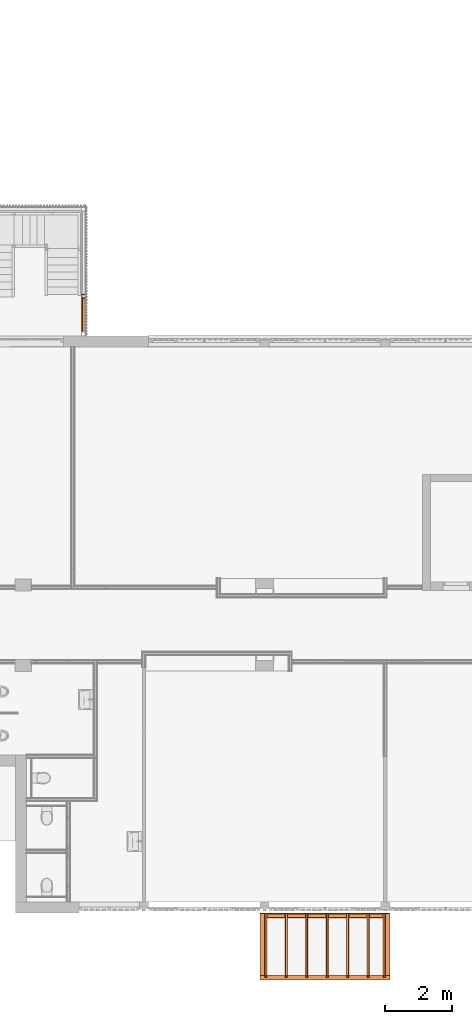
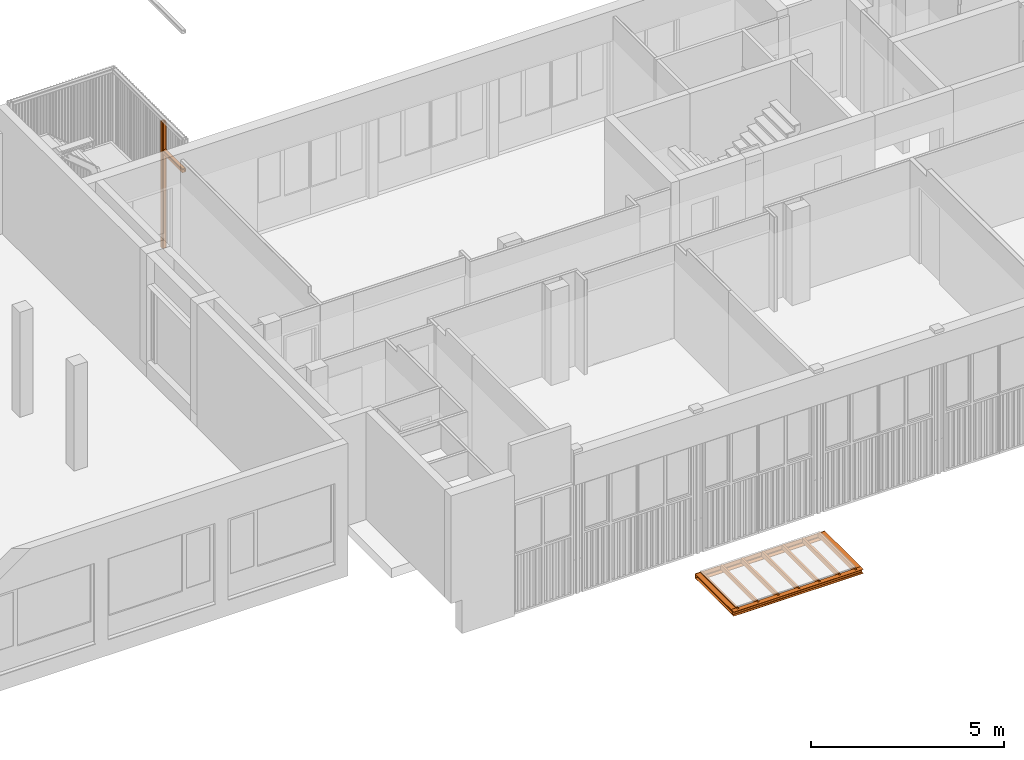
# One storey, part 111 of 117: 13 proxies.
"""IFC2X3 building model written with IfcOpenShell, lengths in millimetres."""

from ifc_helpers import new_model, entity, si_unit, converted_unit, derived_unit, money_unit, direction, frame, origin_with_axes, place, context, subcontext, project, spatial, faceted_brep, material, type_object, element, save


model = new_model("IFC2X3")

# Units and contexts
model_context = context("Model", 3, precision=0.01, world=origin_with_axes(), true_north=direction((0.0, 1.0)))
body_context = subcontext(model_context, "Body", "Model", "MODEL_VIEW")
ifc_project = project(units=[si_unit("LENGTHUNIT", "METRE", prefix="MILLI"), si_unit("AREAUNIT", "SQUARE_METRE"), si_unit("VOLUMEUNIT", "CUBIC_METRE"), converted_unit("PLANEANGLEUNIT", "DEGREE", entity("IfcPlaneAngleMeasure", 0.0174532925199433), si_unit("PLANEANGLEUNIT", "RADIAN"), dimensions=[0, 0, 0, 0, 0, 0, 0]), money_unit("EUR"), converted_unit("TIMEUNIT", "Year", entity("IfcTimeMeasure", 31557600.0), si_unit("TIMEUNIT", "SECOND"), dimensions=[0, 0, 1, 0, 0, 0, 0]), si_unit("MASSUNIT", "GRAM", prefix="KILO"), si_unit("THERMODYNAMICTEMPERATUREUNIT", "DEGREE_CELSIUS"), si_unit("LUMINOUSINTENSITYUNIT", "LUMEN"), si_unit("ENERGYUNIT", "JOULE", prefix="MEGA"), derived_unit("THERMALCONDUCTANCEUNIT", [(si_unit("POWERUNIT", "WATT"), 1), (si_unit("LENGTHUNIT", "METRE"), -1), (si_unit("THERMODYNAMICTEMPERATUREUNIT", "KELVIN"), -1)]), derived_unit("SPECIFICHEATCAPACITYUNIT", [(si_unit("ENERGYUNIT", "JOULE"), 1), (si_unit("MASSUNIT", "GRAM", prefix="KILO"), -1), (si_unit("THERMODYNAMICTEMPERATUREUNIT", "KELVIN"), -1)]), derived_unit("MASSDENSITYUNIT", [(si_unit("MASSUNIT", "GRAM", prefix="KILO"), 1), (si_unit("VOLUMEUNIT", "CUBIC_METRE"), -1)])], contexts=[model_context])

# Site, building, storey
site_placement = place(None, origin_with_axes())
site = spatial("IfcSite", under=ifc_project, at=site_placement, Name="Site", CompositionType="ELEMENT")
building_placement = place(site_placement, origin_with_axes())
building = spatial("IfcBuilding", under=site, at=building_placement, Name="Naam gebouw", CompositionType="ELEMENT")
storey_placement = place(building_placement, frame((0.0, 0.0, 4150.0), z_axis=(0.0, 0.0, 1.0), x_axis=(1.0, 0.0, 0.0)))
storey = spatial("IfcBuildingStorey", under=building, at=storey_placement, Name="1e verdieping N", CompositionType="ELEMENT", Elevation=4150.0)

# Proxies
ifc_material_1 = material(Name="Metaal - Staal AFW")
building_element_proxy_type_1 = type_object("IfcBuildingElementProxyType", Name="HEA balk 27", PredefinedType="NOTDEFINED")
proxy_1_placement = place(storey_placement, frame((7132.449650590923, 1255.668707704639, -1740.0), z_axis=(0.0, 0.0, 1.0), x_axis=(0.0, -1.0, 0.0)))
element("IfcBuildingElementProxy", 1, at=proxy_1_placement, inside=storey, type_object=building_element_proxy_type_1, material=ifc_material_1, Name="_Boom-x", context=body_context, shape_type="Brep", body=[
    faceted_brep([(0.0, -70.0, 0.0), (-1850.000000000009, -70.00000000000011, 0.0), (-1850.000000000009, 69.9999999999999, 0.0), (0.0, 70.0, 0.0), (0.0, -70.0, 8.5), (-1850.000000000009, -70.00000000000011, 8.500000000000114), (-1850.000000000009, -14.75000000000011, 8.500000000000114), (-1850.000000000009, -8.750000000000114, 10.10769515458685), (-1850.000000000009, -4.35769515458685, 14.50000000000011), (-1850.000000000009, -2.750000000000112, 20.50000000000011), (-1850.000000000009, -2.750000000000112, 112.5000000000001), (-1850.000000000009, -4.357695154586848, 118.5000000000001), (-1850.000000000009, -8.750000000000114, 122.8923048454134), (-1850.000000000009, -14.75000000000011, 124.5000000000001), (-1850.000000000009, -70.00000000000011, 124.5000000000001), (-1850.000000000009, -70.00000000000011, 133.0000000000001), (-1850.000000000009, 69.9999999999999, 133.0000000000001), (-1850.000000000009, 69.9999999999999, 124.5000000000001), (-1850.000000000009, 14.74999999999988, 124.5000000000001), (-1850.000000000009, 8.749999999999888, 122.8923048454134), (-1850.000000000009, 4.35769515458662, 118.5000000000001), (-1850.000000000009, 2.749999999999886, 112.5000000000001), (-1850.000000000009, 2.749999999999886, 20.50000000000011), (-1850.000000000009, 4.357695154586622, 14.50000000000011), (-1850.000000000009, 8.749999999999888, 10.10769515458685), (-1850.000000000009, 14.74999999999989, 8.500000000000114), (-1850.000000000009, 69.9999999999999, 8.500000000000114), (0.0, 70.0, 8.5), (0.0, 14.75, 8.5), (0.0, 8.75, 10.10769515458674), (0.0, 4.357695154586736, 14.5), (0.0, 2.749999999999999, 20.5), (0.0, 2.749999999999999, 112.5), (0.0, 4.357695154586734, 118.5), (0.0, 8.75, 122.8923048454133), (0.0, 14.75, 124.5), (0.0, 70.0, 124.5), (0.0, 70.0, 133.0), (0.0, -70.0, 133.0), (0.0, -70.0, 124.5), (0.0, -14.75, 124.5), (0.0, -8.75, 122.8923048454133), (0.0, -4.357695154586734, 118.5), (0.0, -2.749999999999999, 112.5), (0.0, -2.749999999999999, 20.5), (0.0, -4.357695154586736, 14.5), (0.0, -8.75, 10.10769515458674), (0.0, -14.75, 8.5)], [[[0, 1, 2, 3]], [[4, 5, 1, 0]], [[1, 5, 6, 7, 8, 9, 10, 11, 12, 13, 14, 15, 16, 17, 18, 19, 20, 21, 22, 23, 24, 25, 26, 2]], [[3, 2, 26, 27]], [[0, 3, 27, 28, 29, 30, 31, 32, 33, 34, 35, 36, 37, 38, 39, 40, 41, 42, 43, 44, 45, 46, 47, 4]], [[47, 6, 5, 4]], [[46, 7, 6, 47]], [[45, 8, 7, 46]], [[44, 9, 8, 45]], [[43, 10, 9, 44]], [[42, 11, 10, 43]], [[41, 12, 11, 42]], [[40, 13, 12, 41]], [[39, 14, 13, 40]], [[38, 15, 14, 39]], [[37, 16, 15, 38]], [[36, 17, 16, 37]], [[35, 18, 17, 36]], [[34, 19, 18, 35]], [[33, 20, 19, 34]], [[32, 21, 20, 33]], [[31, 22, 21, 32]], [[30, 23, 22, 31]], [[29, 24, 23, 30]], [[28, 25, 24, 29]], [[27, 26, 25, 28]]]),
])
proxy_2_placement = place(storey_placement, frame((7062.449650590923, 1185.668707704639, -1740.0), z_axis=(0.0, 0.0, 1.0), x_axis=(-1.0, 0.0, 0.0)))
element("IfcBuildingElementProxy", 2, at=proxy_2_placement, inside=storey, type_object=building_element_proxy_type_1, material=ifc_material_1, Name="_Boom-x", context=body_context, shape_type="Brep", body=[
    faceted_brep([(0.0, -70.0, 0.0), (-3874.999999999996, -70.00000000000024, 0.0), (-3874.999999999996, 69.99999999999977, 0.0), (0.0, 70.0, 0.0), (0.0, -70.0, 8.5), (-3874.999999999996, -70.00000000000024, 8.500000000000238), (-3874.999999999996, -14.75000000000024, 8.500000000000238), (-3874.999999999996, -8.750000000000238, 10.10769515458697), (-3874.999999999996, -4.357695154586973, 14.50000000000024), (-3874.999999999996, -2.750000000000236, 20.50000000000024), (-3874.999999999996, -2.750000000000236, 112.5000000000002), (-3874.999999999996, -4.357695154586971, 118.5000000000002), (-3874.999999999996, -8.750000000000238, 122.8923048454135), (-3874.999999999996, -14.75000000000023, 124.5000000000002), (-3874.999999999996, -70.00000000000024, 124.5000000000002), (-3874.999999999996, -70.00000000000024, 133.0000000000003), (-3874.999999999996, 69.99999999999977, 133.0000000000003), (-3874.999999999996, 69.99999999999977, 124.5000000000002), (-3874.999999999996, 14.74999999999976, 124.5000000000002), (-3874.999999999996, 8.749999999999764, 122.8923048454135), (-3874.999999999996, 4.357695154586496, 118.5000000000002), (-3874.999999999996, 2.749999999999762, 112.5000000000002), (-3874.999999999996, 2.749999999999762, 20.50000000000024), (-3874.999999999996, 4.357695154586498, 14.50000000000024), (-3874.999999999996, 8.749999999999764, 10.10769515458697), (-3874.999999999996, 14.74999999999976, 8.500000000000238), (-3874.999999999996, 69.99999999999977, 8.500000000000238), (0.0, 70.0, 8.5), (0.0, 14.75, 8.5), (0.0, 8.75, 10.10769515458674), (0.0, 4.357695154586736, 14.5), (0.0, 2.749999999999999, 20.5), (0.0, 2.749999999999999, 112.5), (0.0, 4.357695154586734, 118.5), (0.0, 8.75, 122.8923048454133), (0.0, 14.75, 124.5), (0.0, 70.0, 124.5), (0.0, 70.0, 133.0), (0.0, -70.0, 133.0), (0.0, -70.0, 124.5), (0.0, -14.75, 124.5), (0.0, -8.75, 122.8923048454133), (0.0, -4.357695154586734, 118.5), (0.0, -2.749999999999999, 112.5), (0.0, -2.749999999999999, 20.5), (0.0, -4.357695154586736, 14.5), (0.0, -8.75, 10.10769515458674), (0.0, -14.75, 8.5)], [[[0, 1, 2, 3]], [[4, 5, 1, 0]], [[1, 5, 6, 7, 8, 9, 10, 11, 12, 13, 14, 15, 16, 17, 18, 19, 20, 21, 22, 23, 24, 25, 26, 2]], [[3, 2, 26, 27]], [[0, 3, 27, 28, 29, 30, 31, 32, 33, 34, 35, 36, 37, 38, 39, 40, 41, 42, 43, 44, 45, 46, 47, 4]], [[47, 6, 5, 4]], [[46, 7, 6, 47]], [[45, 8, 7, 46]], [[44, 9, 8, 45]], [[43, 10, 9, 44]], [[42, 11, 10, 43]], [[41, 12, 11, 42]], [[40, 13, 12, 41]], [[39, 14, 13, 40]], [[38, 15, 14, 39]], [[37, 16, 15, 38]], [[36, 17, 16, 37]], [[35, 18, 17, 36]], [[34, 19, 18, 35]], [[33, 20, 19, 34]], [[32, 21, 20, 33]], [[31, 22, 21, 32]], [[30, 23, 22, 31]], [[29, 24, 23, 30]], [[28, 25, 24, 29]], [[27, 26, 25, 28]]]),
])
proxy_3_placement = place(storey_placement, frame((10867.44965059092, 1255.668707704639, -1740.0), z_axis=(0.0, 0.0, 1.0), x_axis=(0.0, -1.0, 0.0)))
element("IfcBuildingElementProxy", 3, at=proxy_3_placement, inside=storey, type_object=building_element_proxy_type_1, material=ifc_material_1, Name="_Boom-x", context=body_context, shape_type="Brep", body=[
    faceted_brep([(0.0, -70.0, 0.0), (-1850.00000000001, -70.00000000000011, 0.0), (-1850.00000000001, 69.9999999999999, 0.0), (0.0, 70.0, 0.0), (0.0, -70.0, 8.5), (-1850.00000000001, -70.00000000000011, 8.500000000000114), (-1850.00000000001, -14.75000000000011, 8.500000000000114), (-1850.00000000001, -8.750000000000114, 10.10769515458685), (-1850.00000000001, -4.35769515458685, 14.50000000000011), (-1850.00000000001, -2.750000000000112, 20.50000000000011), (-1850.00000000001, -2.750000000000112, 112.5000000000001), (-1850.00000000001, -4.357695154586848, 118.5000000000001), (-1850.00000000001, -8.750000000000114, 122.8923048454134), (-1850.00000000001, -14.75000000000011, 124.5000000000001), (-1850.00000000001, -70.00000000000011, 124.5000000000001), (-1850.00000000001, -70.00000000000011, 133.0000000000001), (-1850.00000000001, 69.9999999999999, 133.0000000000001), (-1850.00000000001, 69.9999999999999, 124.5000000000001), (-1850.00000000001, 14.74999999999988, 124.5000000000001), (-1850.00000000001, 8.749999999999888, 122.8923048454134), (-1850.00000000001, 4.35769515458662, 118.5000000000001), (-1850.00000000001, 2.749999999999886, 112.5000000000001), (-1850.00000000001, 2.749999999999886, 20.50000000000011), (-1850.00000000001, 4.357695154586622, 14.50000000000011), (-1850.00000000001, 8.749999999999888, 10.10769515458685), (-1850.00000000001, 14.74999999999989, 8.500000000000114), (-1850.00000000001, 69.9999999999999, 8.500000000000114), (0.0, 70.0, 8.5), (0.0, 14.75, 8.5), (0.0, 8.75, 10.10769515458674), (0.0, 4.357695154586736, 14.5), (0.0, 2.749999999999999, 20.5), (0.0, 2.749999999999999, 112.5), (0.0, 4.357695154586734, 118.5), (0.0, 8.75, 122.8923048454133), (0.0, 14.75, 124.5), (0.0, 70.0, 124.5), (0.0, 70.0, 133.0), (0.0, -70.0, 133.0), (0.0, -70.0, 124.5), (0.0, -14.75, 124.5), (0.0, -8.75, 122.8923048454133), (0.0, -4.357695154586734, 118.5), (0.0, -2.749999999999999, 112.5), (0.0, -2.749999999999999, 20.5), (0.0, -4.357695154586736, 14.5), (0.0, -8.75, 10.10769515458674), (0.0, -14.75, 8.5)], [[[0, 1, 2, 3]], [[4, 5, 1, 0]], [[1, 5, 6, 7, 8, 9, 10, 11, 12, 13, 14, 15, 16, 17, 18, 19, 20, 21, 22, 23, 24, 25, 26, 2]], [[3, 2, 26, 27]], [[0, 3, 27, 28, 29, 30, 31, 32, 33, 34, 35, 36, 37, 38, 39, 40, 41, 42, 43, 44, 45, 46, 47, 4]], [[47, 6, 5, 4]], [[46, 7, 6, 47]], [[45, 8, 7, 46]], [[44, 9, 8, 45]], [[43, 10, 9, 44]], [[42, 11, 10, 43]], [[41, 12, 11, 42]], [[40, 13, 12, 41]], [[39, 14, 13, 40]], [[38, 15, 14, 39]], [[37, 16, 15, 38]], [[36, 17, 16, 37]], [[35, 18, 17, 36]], [[34, 19, 18, 35]], [[33, 20, 19, 34]], [[32, 21, 20, 33]], [[31, 22, 21, 32]], [[30, 23, 22, 31]], [[29, 24, 23, 30]], [[28, 25, 24, 29]], [[27, 26, 25, 28]]]),
])
building_element_proxy_type_2 = type_object("IfcBuildingElementProxyType", Name="Buis vk koudgev balk 26", PredefinedType="NOTDEFINED")
proxy_4_placement = place(storey_placement, frame((1799.999999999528, 21455.82979156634, 2400.0), z_axis=(0.0, 0.0, 1.0), x_axis=(0.0, 1.0, 0.0)))
element("IfcBuildingElementProxy", 4, at=proxy_4_placement, inside=storey, type_object=building_element_proxy_type_2, material=ifc_material_1, Name="_Boom-x", context=body_context, shape_type="Brep", body=[
    faceted_brep([(0.0, -39.99999999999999, 0.0), (-1000.0, -40.00000000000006, 0.0), (-1000.0, 39.99999999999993, 0.0), (0.0, 39.99999999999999, 0.0), (0.0, -54.14213562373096, 5.857864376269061), (-1000.0, -54.14213562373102, 5.857864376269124), (-1000.0, -60.00000000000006, 20.00000000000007), (-1000.0, -60.00000000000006, 100.0000000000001), (-1000.0, -54.14213562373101, 114.142135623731), (-1000.0, -40.00000000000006, 120.0000000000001), (-1000.0, 39.99999999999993, 120.0000000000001), (-1000.0, 54.14213562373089, 114.142135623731), (-1000.0, 59.99999999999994, 100.0000000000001), (-1000.0, 59.99999999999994, 20.00000000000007), (-1000.0, 54.14213562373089, 5.85786437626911), (-1000.0, -40.00000000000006, 10.00000000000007), (-1000.0, 39.99999999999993, 10.00000000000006), (-1000.0, 47.0710678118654, 12.92893218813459), (-1000.0, 49.99999999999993, 20.00000000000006), (-1000.0, 49.99999999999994, 100.0000000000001), (-1000.0, 47.07106781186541, 107.0710678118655), (-1000.0, 39.99999999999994, 110.0), (-1000.0, -40.00000000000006, 110.0000000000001), (-1000.0, -47.07106781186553, 107.0710678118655), (-1000.0, -50.00000000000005, 100.0000000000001), (-1000.0, -50.00000000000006, 20.00000000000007), (-1000.0, -47.07106781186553, 12.9289321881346), (0.0, 54.14213562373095, 5.857864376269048), (0.0, 60.0, 20.0), (0.0, 60.0, 99.99999999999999), (0.0, 54.14213562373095, 114.142135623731), (0.0, 39.99999999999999, 120.0), (0.0, -39.99999999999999, 120.0), (0.0, -54.14213562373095, 114.142135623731), (0.0, -60.0, 99.99999999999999), (0.0, -60.0, 20.0), (0.0, -40.0, 10.00000000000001), (0.0, -47.07106781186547, 12.92893218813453), (0.0, -49.99999999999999, 20.0), (0.0, -49.99999999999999, 100.0), (0.0, -47.07106781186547, 107.0710678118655), (0.0, -39.99999999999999, 110.0), (0.0, 40.0, 110.0), (0.0, 47.07106781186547, 107.0710678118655), (0.0, 49.99999999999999, 99.99999999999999), (0.0, 49.99999999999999, 20.0), (0.0, 47.07106781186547, 12.92893218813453), (0.0, 39.99999999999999, 10.0)], [[[0, 1, 2, 3]], [[4, 5, 1, 0]], [[1, 5, 6, 7, 8, 9, 10, 11, 12, 13, 14, 2], [15, 16, 17, 18, 19, 20, 21, 22, 23, 24, 25, 26]], [[3, 2, 14, 27]], [[0, 3, 27, 28, 29, 30, 31, 32, 33, 34, 35, 4], [36, 37, 38, 39, 40, 41, 42, 43, 44, 45, 46, 47]], [[35, 6, 5, 4]], [[34, 7, 6, 35]], [[33, 8, 7, 34]], [[32, 9, 8, 33]], [[31, 10, 9, 32]], [[30, 11, 10, 31]], [[29, 12, 11, 30]], [[28, 13, 12, 29]], [[27, 14, 13, 28]], [[47, 16, 15, 36]], [[46, 17, 16, 47]], [[45, 18, 17, 46]], [[44, 19, 18, 45]], [[43, 20, 19, 44]], [[42, 21, 20, 43]], [[41, 22, 21, 42]], [[40, 23, 22, 41]], [[39, 24, 23, 40]], [[38, 25, 24, 39]], [[37, 26, 25, 38]], [[36, 15, 26, 37]]]),
])
building_element_proxy_type_3 = type_object("IfcBuildingElementProxyType", Name="Buis vk koudgev kolom 26", PredefinedType="NOTDEFINED")
proxy_5_placement = place(storey_placement, frame((1799.999999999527, 21515.82979156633, -600.0000000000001), z_axis=(0.0, 0.0, 1.0), x_axis=(-1.0, 0.0, 0.0)))
element("IfcBuildingElementProxy", 5, at=proxy_5_placement, inside=storey, type_object=building_element_proxy_type_3, material=ifc_material_1, Name="_Boom-x", context=body_context, shape_type="Brep", body=[
    faceted_brep([(39.99999999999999, -60.0, 0.0), (39.99999999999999, -60.0, 3980.0), (-39.99999999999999, -60.0, 3980.0), (-39.99999999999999, -60.0, 0.0), (54.14213562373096, -54.14213562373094, 0.0), (54.14213562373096, -54.14213562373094, 3980.0), (60.0, -39.99999999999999, 3980.0), (60.0, 39.99999999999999, 3980.0), (54.14213562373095, 54.14213562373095, 3980.0), (39.99999999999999, 60.0, 3980.0), (-39.99999999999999, 60.0, 3980.0), (-54.14213562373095, 54.14213562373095, 3980.0), (-60.0, 39.99999999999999, 3980.0), (-60.0, -39.99999999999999, 3980.0), (-54.14213562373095, -54.14213562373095, 3980.0), (40.0, -49.99999999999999, 3980.0), (-39.99999999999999, -49.99999999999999, 3980.0), (-47.07106781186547, -47.07106781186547, 3980.0), (-49.99999999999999, -40.0, 3980.0), (-49.99999999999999, 39.99999999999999, 3980.0), (-47.07106781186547, 47.07106781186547, 3980.0), (-40.0, 49.99999999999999, 3980.0), (39.99999999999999, 49.99999999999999, 3980.0), (47.07106781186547, 47.07106781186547, 3980.0), (49.99999999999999, 40.0, 3980.0), (49.99999999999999, -39.99999999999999, 3980.0), (47.07106781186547, -47.07106781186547, 3980.0), (-54.14213562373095, -54.14213562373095, 0.0), (-60.0, -39.99999999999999, 0.0), (-60.0, 39.99999999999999, 0.0), (-54.14213562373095, 54.14213562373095, 0.0), (-39.99999999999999, 60.0, 0.0), (39.99999999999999, 60.0, 0.0), (54.14213562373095, 54.14213562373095, 0.0), (60.0, 39.99999999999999, 0.0), (60.0, -39.99999999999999, 0.0), (40.0, -49.99999999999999, 0.0), (47.07106781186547, -47.07106781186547, 0.0), (49.99999999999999, -39.99999999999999, 0.0), (49.99999999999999, 40.0, 0.0), (47.07106781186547, 47.07106781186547, 0.0), (39.99999999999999, 49.99999999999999, 0.0), (-40.0, 49.99999999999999, 0.0), (-47.07106781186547, 47.07106781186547, 0.0), (-49.99999999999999, 39.99999999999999, 0.0), (-49.99999999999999, -40.0, 0.0), (-47.07106781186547, -47.07106781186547, 0.0), (-39.99999999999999, -49.99999999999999, 0.0)], [[[0, 1, 2, 3]], [[4, 5, 1, 0]], [[1, 5, 6, 7, 8, 9, 10, 11, 12, 13, 14, 2], [15, 16, 17, 18, 19, 20, 21, 22, 23, 24, 25, 26]], [[3, 2, 14, 27]], [[0, 3, 27, 28, 29, 30, 31, 32, 33, 34, 35, 4], [36, 37, 38, 39, 40, 41, 42, 43, 44, 45, 46, 47]], [[35, 6, 5, 4]], [[34, 7, 6, 35]], [[33, 8, 7, 34]], [[32, 9, 8, 33]], [[31, 10, 9, 32]], [[30, 11, 10, 31]], [[29, 12, 11, 30]], [[28, 13, 12, 29]], [[27, 14, 13, 28]], [[47, 16, 15, 36]], [[46, 17, 16, 47]], [[45, 18, 17, 46]], [[44, 19, 18, 45]], [[43, 20, 19, 44]], [[42, 21, 20, 43]], [[41, 22, 21, 42]], [[40, 23, 22, 41]], [[39, 24, 23, 40]], [[38, 25, 24, 39]], [[37, 26, 25, 38]], [[36, 15, 26, 37]]]),
])
ifc_material_2 = material(Name="Hout C")
building_element_proxy_type_4 = type_object("IfcBuildingElementProxyType", Name="Prefab balk recht 01 27", PredefinedType="NOTDEFINED")
for number, where, z_axis, x_axis, name in (
    (6, (9066.949650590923, 3105.668707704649, -1730.0), (0.0, 0.0, 1.0), (0.0, 1.0, 0.0), "_Boom-x"),
    (7, (8456.949650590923, 3105.668707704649, -1730.0), (0.0, 0.0, 1.0), (0.0, 1.0, 0.0), "_Boom-x"),
    (8, (9676.949650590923, 3105.668707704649, -1730.0), (0.0, 0.0, 1.0), (0.0, 1.0, 0.0), "_Boom-x"),
):
    element("IfcBuildingElementProxy", number, at=place(storey_placement, frame(where, z_axis=z_axis, x_axis=x_axis)), inside=storey, type_object=building_element_proxy_type_4, material=ifc_material_2, Name=name, context=body_context, shape_type="Brep", body=[
        faceted_brep([(-1850.000000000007, 28.50000000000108, 145.9999999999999), (-1850.000000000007, -28.4999999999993, 145.9999999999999), (0.0, -28.4999999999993, 145.9999999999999), (0.0, 28.4999999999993, 145.9999999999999), (-1850.000000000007, -28.4999999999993, 123.0000000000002), (-1850.000000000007, 28.4999999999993, 123.0000000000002), (-1910.000000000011, -28.4999999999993, 123.0000000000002), (-1910.000000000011, -28.4999999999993, 0.0), (0.0, -28.4999999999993, 0.0), (0.0, 28.4999999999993, 0.0), (-1910.000000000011, 28.50000000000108, 0.0), (-1910.000000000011, 28.50000000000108, 123.0000000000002)], [[[0, 1, 2, 3]], [[4, 1, 0, 5]], [[4, 6, 7, 8, 2, 1]], [[2, 8, 9, 3]], [[5, 0, 3, 9, 10, 11]], [[6, 4, 5, 11]], [[6, 11, 10, 7]], [[9, 8, 7, 10]]]),
    ])
proxy_6_placement = place(storey_placement, frame((10286.94965059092, 3105.668707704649, -1730.0), z_axis=(0.0, 0.0, 1.0), x_axis=(0.0, 1.0, 0.0)))
element("IfcBuildingElementProxy", 9, at=proxy_6_placement, inside=storey, type_object=building_element_proxy_type_4, material=ifc_material_2, Name="_Boom-x", context=body_context, shape_type="Brep", body=[
    faceted_brep([(-1850.000000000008, 28.50000000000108, 145.9999999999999), (-1850.000000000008, -28.4999999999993, 145.9999999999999), (0.0, -28.4999999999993, 145.9999999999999), (0.0, 28.4999999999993, 145.9999999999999), (-1850.000000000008, -28.4999999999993, 123.0000000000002), (-1850.000000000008, 28.4999999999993, 123.0000000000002), (-1910.000000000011, -28.4999999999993, 123.0000000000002), (-1910.000000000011, -28.4999999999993, 0.0), (0.0, -28.4999999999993, 0.0), (0.0, 28.4999999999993, 0.0), (-1910.000000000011, 28.50000000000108, 0.0), (-1910.000000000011, 28.50000000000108, 123.0000000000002)], [[[0, 1, 2, 3]], [[4, 1, 0, 5]], [[4, 6, 7, 8, 2, 1]], [[2, 8, 9, 3]], [[5, 0, 3, 9, 10, 11]], [[6, 4, 5, 11]], [[6, 11, 10, 7]], [[9, 8, 7, 10]]]),
])
proxy_7_placement = place(storey_placement, frame((7236.949650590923, 3105.668707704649, -1730.0), z_axis=(0.0, 0.0, 1.0), x_axis=(0.0, 1.0, 0.0)))
element("IfcBuildingElementProxy", 10, at=proxy_7_placement, inside=storey, type_object=building_element_proxy_type_4, material=ifc_material_2, Name="_Boom-x", context=body_context, shape_type="Brep", body=[
    faceted_brep([(-1850.000000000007, 28.4999999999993, 145.9999999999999), (-1850.000000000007, -28.50000000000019, 145.9999999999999), (0.0, -28.50000000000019, 145.9999999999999), (0.0, 28.50000000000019, 145.9999999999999), (-1850.000000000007, -28.50000000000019, 123.0000000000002), (-1850.000000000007, 28.50000000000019, 123.0000000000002), (-1910.000000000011, -28.50000000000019, 123.0000000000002), (-1910.000000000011, -28.50000000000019, 0.0), (0.0, -28.50000000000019, 0.0), (0.0, 28.50000000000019, 0.0), (-1910.000000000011, 28.4999999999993, 0.0), (-1910.000000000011, 28.4999999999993, 123.0000000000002)], [[[0, 1, 2, 3]], [[4, 1, 0, 5]], [[4, 6, 7, 8, 2, 1]], [[2, 8, 9, 3]], [[5, 0, 3, 9, 10, 11]], [[6, 4, 5, 11]], [[6, 11, 10, 7]], [[9, 8, 7, 10]]]),
])
proxy_8_placement = place(storey_placement, frame((10762.94965059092, 3105.668707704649, -1730.0), z_axis=(0.0, 0.0, 1.0), x_axis=(0.0, -1.0, 0.0)))
element("IfcBuildingElementProxy", 11, at=proxy_8_placement, inside=storey, type_object=building_element_proxy_type_4, material=ifc_material_2, Name="_Boom-x", context=body_context, shape_type="Brep", body=[
    faceted_brep([(1850.000000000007, -28.50000000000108, 145.9999999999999), (1850.000000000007, 28.4999999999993, 145.9999999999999), (0.0, 28.4999999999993, 145.9999999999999), (0.0, -28.4999999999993, 145.9999999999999), (1850.000000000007, 28.4999999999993, 123.0000000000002), (1850.000000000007, -28.4999999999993, 123.0000000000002), (1910.000000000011, 28.4999999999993, 123.0000000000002), (1910.000000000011, 28.4999999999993, 0.0), (0.0, 28.4999999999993, 0.0), (0.0, -28.4999999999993, 0.0), (1910.000000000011, -28.50000000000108, 0.0), (1910.000000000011, -28.50000000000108, 123.0000000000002)], [[[0, 1, 2, 3]], [[4, 1, 0, 5]], [[4, 6, 7, 8, 2, 1]], [[8, 9, 3, 2]], [[5, 0, 3, 9, 10, 11]], [[6, 4, 5, 11]], [[6, 11, 10, 7]], [[10, 9, 8, 7]]]),
])
proxy_9_placement = place(storey_placement, frame((7846.949650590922, 3105.668707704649, -1730.0), z_axis=(0.0, 0.0, 1.0), x_axis=(0.0, 1.0, 0.0)))
element("IfcBuildingElementProxy", 12, at=proxy_9_placement, inside=storey, type_object=building_element_proxy_type_4, material=ifc_material_2, Name="_Boom-x", context=body_context, shape_type="Brep", body=[
    faceted_brep([(-1850.000000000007, 28.4999999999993, 145.9999999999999), (-1850.000000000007, -28.50000000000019, 145.9999999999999), (0.0, -28.50000000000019, 145.9999999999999), (0.0, 28.50000000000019, 145.9999999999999), (-1850.000000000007, -28.50000000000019, 123.0000000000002), (-1850.000000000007, 28.50000000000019, 123.0000000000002), (-1910.000000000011, -28.50000000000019, 123.0000000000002), (-1910.000000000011, -28.50000000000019, 0.0), (0.0, -28.50000000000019, 0.0), (0.0, 28.50000000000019, 0.0), (-1910.000000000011, 28.4999999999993, 0.0), (-1910.000000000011, 28.4999999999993, 123.0000000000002)], [[[0, 1, 2, 3]], [[4, 1, 0, 5]], [[4, 6, 7, 8, 2, 1]], [[2, 8, 9, 3]], [[5, 0, 3, 9, 10, 11]], [[6, 4, 5, 11]], [[6, 11, 10, 7]], [[9, 8, 7, 10]]]),
])
building_element_proxy_type_5 = type_object("IfcBuildingElementProxyType", Name="Hoeklijn gelijk balk 27", PredefinedType="NOTDEFINED")
proxy_10_placement = place(storey_placement, frame((7062.449650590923, 3040.668707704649, -1750.0), z_axis=(0.0, 0.0, 1.0), x_axis=(-1.0, 0.0, 0.0)))
element("IfcBuildingElementProxy", 13, at=proxy_10_placement, inside=storey, type_object=building_element_proxy_type_5, material=ifc_material_1, Name="_Boom-x", context=body_context, shape_type="Brep", body=[
    faceted_brep([(0.0, 75.0, 0.0), (-3874.999999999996, 74.99999999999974, 0.0), (-3874.999999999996, 74.99999999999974, 2.000000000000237), (0.0, 75.0, 2.0), (0.0, -75.0, 0.0), (-3874.999999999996, -75.00000000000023, 0.0), (-3874.999999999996, -75.00000000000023, 150.0000000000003), (-3874.999999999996, -73.00000000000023, 150.0000000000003), (-3874.999999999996, -65.00000000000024, 142.0000000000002), (-3874.999999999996, -65.00000000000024, 26.00000000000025), (-3874.999999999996, -49.00000000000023, 10.00000000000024), (-3874.999999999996, 66.99999999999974, 10.00000000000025), (0.0, 66.99999999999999, 10.00000000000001), (0.0, -48.99999999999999, 10.0), (0.0, -65.0, 26.00000000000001), (0.0, -65.0, 142.0), (0.0, -73.0, 150.0), (0.0, -75.0, 150.0)], [[[0, 1, 2, 3]], [[4, 5, 1, 0]], [[1, 5, 6, 7, 8, 9, 10, 11, 2]], [[3, 2, 11, 12]], [[0, 3, 12, 13, 14, 15, 16, 17, 4]], [[17, 6, 5, 4]], [[16, 7, 6, 17]], [[15, 8, 7, 16]], [[14, 9, 8, 15]], [[13, 10, 9, 14]], [[12, 11, 10, 13]]]),
])

save(model, "model.ifc")
